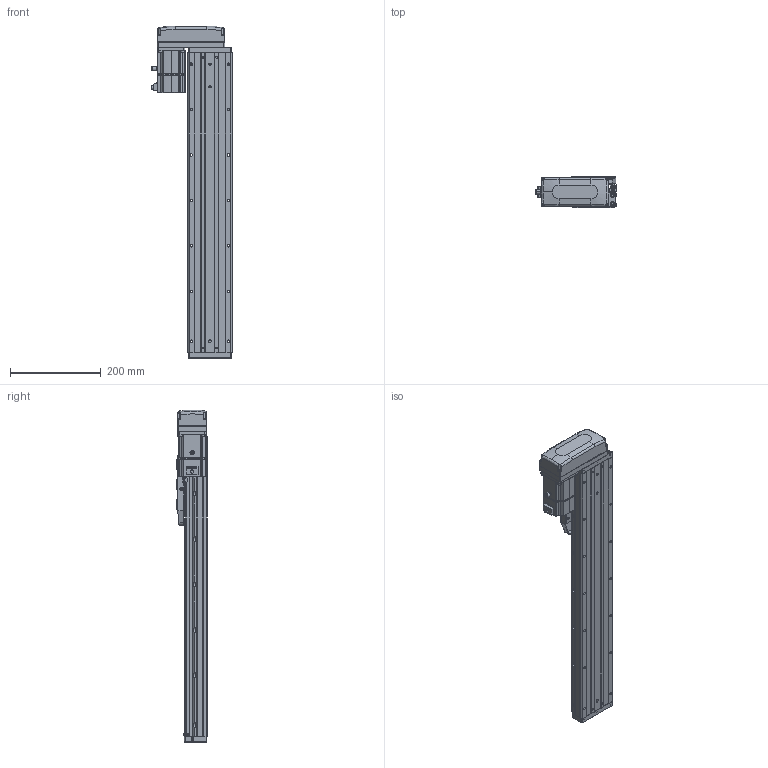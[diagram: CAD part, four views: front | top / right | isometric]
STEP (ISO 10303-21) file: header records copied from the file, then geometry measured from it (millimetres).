
FILE_DESCRIPTION (( 'STEP AP203' ), '1' );
FILE_NAME ('CTHA100-450-BL-M20-C4L.step', '2022-07-06T09:08:45', ( '微软用户' ), ( '微软中国' ), 'SwSTEP 2.0', 'SolidWorks 2020', '' );
FILE_SCHEMA (( 'CONFIG_CONTROL_DESIGN' ));
Length unit declared in the file: millimetre
Products named in the file (19): EE_SX911P_R; CTHA86-030; CTHA60-017; GBT 70.3-M3℅6; CTHA60-021; CTHA86-015-1_CTHA86-015-2; KTHA100-001_660; GBT77-2000 M3×3; CTHA86-033; KTHA100-004; _X2_4E0983F1_X0_200W_1; GBT 70.1-M3℅6; CTHA100-450-BL-M20-C4L; KTHA100-005; CTHA100-002; GBT70.1 M5℅16; GB¨uT 70.2-M3¡Á5_M3¡Á6; CTHA100-031; CTHA60-016
Assembly tree (64 placements, depth 2):
  CTHA100-450-BL-M20-C4L
    KTHA100-001_660
    KTHA100-004
    KTHA100-005
    GB¨uT 70.2-M3¡Á5_M3¡Á6  x10
    EE_SX911P_R  x3
    CTHA60-017  x3
    CTHA60-021  x2
    GBT77-2000 M3×3  x6
    GBT 70.1-M3℅6  x10
    GBT70.1 M5℅16  x14
    CTHA60-016  x2
    _X2_4E0983F1_X0_200W_1
    CTHA100-002
    CTHA100-031
    CTHA86-030  x2
    GBT 70.3-M3℅6  x4
    CTHA86-015-1_CTHA86-015-2
    CTHA86-033
Bounding box: 178.52 x 68 x 731 mm (x, y, z)
Volume: 3248905.3 mm3; surface area: 559317.6 mm2
Topology: 66 solids, 66 shells, 2649 faces, 6359 edges, 3940 vertices
Faces by surface type: plane 1380, cylinder 695, cone 351, torus 124, bspline 75, sphere 24
Entity records: 45346 total; most frequent: CARTESIAN_POINT 8923, DIRECTION 6984, ORIENTED_EDGE 6834, EDGE_CURVE 3417, AXIS2_PLACEMENT_3D 2373, LINE 2238, VECTOR 2238, VERTEX_POINT 2160
